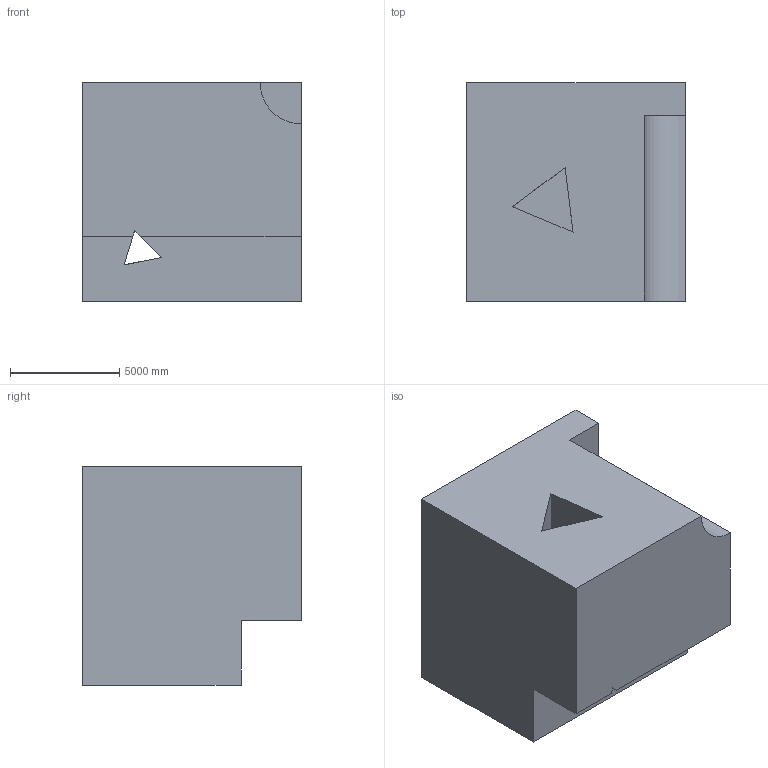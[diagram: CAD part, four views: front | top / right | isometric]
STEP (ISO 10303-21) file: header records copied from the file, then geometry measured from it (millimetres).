
FILE_DESCRIPTION (( 'STEP AP203' ), '1' );
FILE_NAME ('1660.STEP', '2022-08-25T15:22:31', ( 'user' ), ( '' ), 'SwSTEP 2.0', 'SolidWorks 2021', '' );
FILE_SCHEMA (( 'CONFIG_CONTROL_DESIGN' ));
Length unit declared in the file: centimetre
Products named in the file (1): 1660
Bounding box: 10000 x 10000 x 10000 mm (x, y, z)
Volume: 820362091008.4 mm3; surface area: 745034709.2 mm2
Topology: 1 solids, 1 shells, 34 faces, 93 edges, 62 vertices
Faces by surface type: plane 29, cylinder 5
Entity records: 1148 total; most frequent: CARTESIAN_POINT 190, ORIENTED_EDGE 186, DIRECTION 173, EDGE_CURVE 93, LINE 83, VECTOR 83, VERTEX_POINT 62, AXIS2_PLACEMENT_3D 45
